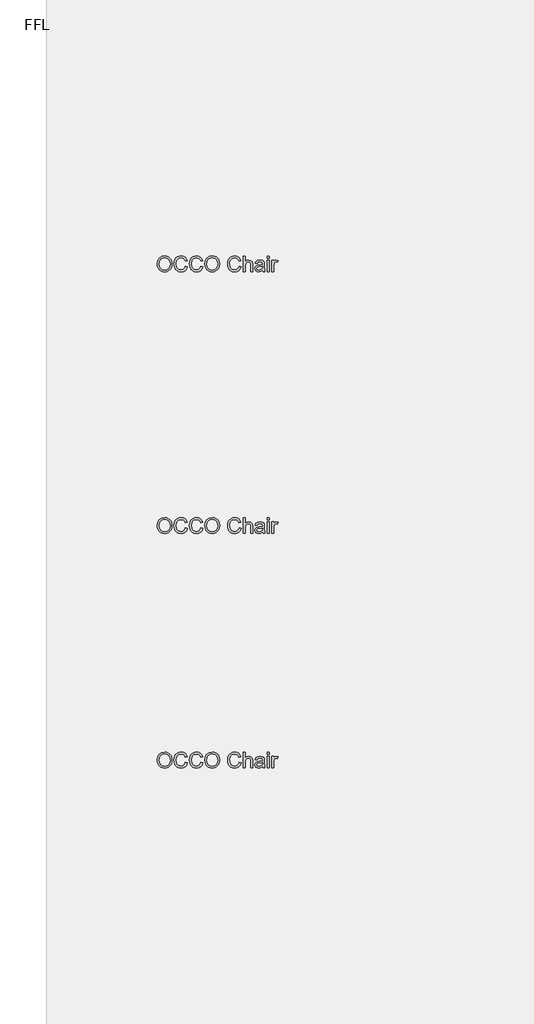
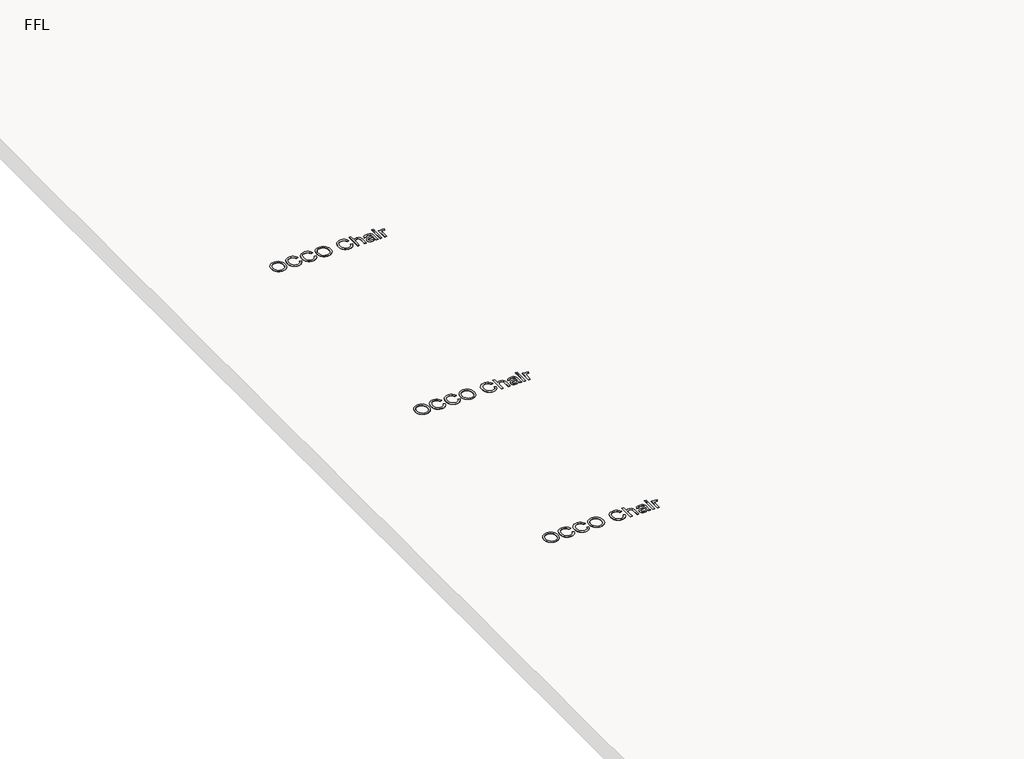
# One storey, part 3 of 5: 3 proxies.
"""IFC4 building model written with IfcOpenShell, lengths in millimetres."""

from ifc_helpers import new_model, si_unit, origin, origin_with_axes, place, context, project, spatial, polyline, outline, extrude, element, save

model = new_model("IFC4")

# Units and contexts
model_context = context("Model", 3, world=origin())
ifc_project = project(units=[si_unit("LENGTHUNIT", "METRE", prefix="MILLI")], contexts=[model_context])

# Site, building, storey
site = spatial("IfcSite", under=ifc_project)
building = spatial("IfcBuilding", under=site)
storey = spatial("IfcBuildingStorey", under=building, Name="FFL", Elevation=0.0)

# Proxies
placement = place(None, origin())
element("IfcBuildingElementProxy", 1, Name="150mm Arial", ObjectType="150mm Arial", at=placement, inside=storey, context=model_context, shape_type="SweptSolid", body=[
    extrude(outline(polyline([(-19208.4052967, 16076.6112457), (-19203.4834217, 16109.2705005), (-19188.7177967, 16133.9790341), (-19166.1727246, 16149.5289139), (-19137.9125083, 16154.7122072), (-19118.5405131, 16152.278313), (-19101.1697198, 16144.9766303), (-19086.7466429, 16133.3209812), (-19076.2177967, 16117.825188), (-19069.7814986, 16099.2374476), (-19067.6360659, 16078.3059572), (-19069.8941789, 16057.0950197), (-19076.6685179, 16038.245861), (-19087.5849842, 16022.7230245), (-19102.2694794, 16011.4910534), (-19119.4915347, 16004.6761495), (-19138.0206813, 16002.4045149), (-19157.6901525, 16004.9150317), (-19175.1601044, 16012.4465822), (-19189.5471236, 16024.3185774), (-19199.9677967, 16039.8504284), (-19206.2959217, 16057.7215221), (-19208.4052967, 16076.6112457)]), holes=[polyline([(-19189.9437583, 16076.4309572), (-19186.252352, 16053.3269909), (-19175.1781333, 16035.7218226), (-19158.533001, 16024.5799957), (-19138.1288544, 16020.8660534), (-19117.4272318, 16024.6160534), (-19100.7550563, 16035.8660534), (-19089.7619674, 16054.012087), (-19086.0976044, 16078.450188), (-19087.666114, 16094.793337), (-19092.3716429, 16108.918938), (-19100.0924962, 16120.4709211), (-19110.7069794, 16129.0932168), (-19123.5119674, 16134.4613058), (-19137.8043352, 16136.2506687), (-19157.6631092, 16132.8026519), (-19174.5471236, 16122.4586014), (-19186.0945996, 16104.0556567), (-19189.9437583, 16076.4309572)])]), origin_with_axes(), (0.0, 0.0, 1.0), 5.0),
    extrude(outline(polyline([(-18938.4052967, 16057.2122072), (-18919.9437583, 16052.4525918), (-18928.4623881, 16030.9396711), (-18941.8307775, 16015.2230245), (-18959.3908736, 16005.6091423), (-18980.4846236, 16002.4045149), (-19001.8983857, 16004.8293947), (-19018.9040948, 16012.1040341), (-19031.9389506, 16023.9760293), (-19041.4401525, 16040.1929764), (-19047.2409337, 16059.2584812), (-19049.1745275, 16079.6761495), (-19046.9885299, 16101.2116062), (-19040.4305371, 16119.808361), (-19029.8430972, 16134.8759692), (-19015.5687583, 16145.823986), (-18998.6396717, 16152.4901519), (-18980.087989, 16154.7122072), (-18959.846102, 16151.8366062), (-18943.1108256, 16143.2098034), (-18930.4049962, 16129.3636495), (-18922.2514506, 16110.8299957), (-18940.712989, 16106.4309572), (-18947.1132294, 16119.8939981), (-18955.8572198, 16129.1292745), (-18967.0531333, 16134.4703202), (-18980.8091429, 16136.2506687), (-18996.6655131, 16134.2765101), (-19009.6913544, 16128.3540341), (-19019.5756693, 16119.105236), (-19026.0074602, 16107.152111), (-19030.712989, 16079.7122072), (-19025.1420756, 16047.9093226), (-19018.0206813, 16036.0328202), (-19007.7983256, 16027.590813), (-18995.5432174, 16022.5472433), (-18982.3235659, 16020.8660534), (-18966.9134097, 16023.1557168), (-18954.072364, 16030.0247072), (-18944.377352, 16041.4009091), (-18938.4052967, 16057.2122072)])), origin_with_axes(), (0.0, 0.0, 1.0), 5.0),
    extrude(outline(polyline([(-18790.712989, 16057.2122072), (-18772.2514506, 16052.4525918), (-18780.7700804, 16030.9396711), (-18794.1384698, 16015.2230245), (-18811.6985659, 16005.6091423), (-18832.7923159, 16002.4045149), (-18854.206078, 16004.8293947), (-18871.2117871, 16012.1040341), (-18884.2466429, 16023.9760293), (-18893.7478448, 16040.1929764), (-18899.548626, 16059.2584812), (-18901.4822198, 16079.6761495), (-18899.2962222, 16101.2116062), (-18892.7382294, 16119.808361), (-18882.1507895, 16134.8759692), (-18867.8764506, 16145.823986), (-18850.947364, 16152.4901519), (-18832.3956813, 16154.7122072), (-18812.1537943, 16151.8366062), (-18795.4185179, 16143.2098034), (-18782.7126885, 16129.3636495), (-18774.5591429, 16110.8299957), (-18793.0206813, 16106.4309572), (-18799.4209217, 16119.8939981), (-18808.1649121, 16129.1292745), (-18819.3608256, 16134.4703202), (-18833.1168352, 16136.2506687), (-18848.9732054, 16134.2765101), (-18861.9990467, 16128.3540341), (-18871.8833616, 16119.105236), (-18878.3151525, 16107.152111), (-18883.0206813, 16079.7122072), (-18877.4497679, 16047.9093226), (-18870.3283736, 16036.0328202), (-18860.1060179, 16027.590813), (-18847.8509097, 16022.5472433), (-18834.6312583, 16020.8660534), (-18819.221102, 16023.1557168), (-18806.3800563, 16030.0247072), (-18796.6850443, 16041.4009091), (-18790.712989, 16057.2122072)])), origin_with_axes(), (0.0, 0.0, 1.0), 5.0),
    extrude(outline(polyline([(-18753.7899121, 16076.6112457), (-18748.8680371, 16109.2705005), (-18734.1024121, 16133.9790341), (-18711.55734, 16149.5289139), (-18683.2971236, 16154.7122072), (-18663.9251284, 16152.278313), (-18646.5543352, 16144.9766303), (-18632.1312583, 16133.3209812), (-18621.6024121, 16117.825188), (-18615.166114, 16099.2374476), (-18613.0206813, 16078.3059572), (-18615.2787943, 16057.0950197), (-18622.0531333, 16038.245861), (-18632.9695996, 16022.7230245), (-18647.6540948, 16011.4910534), (-18664.8761501, 16004.6761495), (-18683.4052967, 16002.4045149), (-18703.0747679, 16004.9150317), (-18720.5447198, 16012.4465822), (-18734.931739, 16024.3185774), (-18745.3524121, 16039.8504284), (-18751.6805371, 16057.7215221), (-18753.7899121, 16076.6112457)]), holes=[polyline([(-18735.3283736, 16076.4309572), (-18731.6369674, 16053.3269909), (-18720.5627486, 16035.7218226), (-18703.9176164, 16024.5799957), (-18683.5134698, 16020.8660534), (-18662.8118472, 16024.6160534), (-18646.1396717, 16035.8660534), (-18635.1465828, 16054.012087), (-18631.4822198, 16078.450188), (-18633.0507294, 16094.793337), (-18637.7562583, 16108.918938), (-18645.4771116, 16120.4709211), (-18656.0915948, 16129.0932168), (-18668.8965828, 16134.4613058), (-18683.1889506, 16136.2506687), (-18703.0477246, 16132.8026519), (-18719.931739, 16122.4586014), (-18731.479215, 16104.0556567), (-18735.3283736, 16076.4309572)])]), origin_with_axes(), (0.0, 0.0, 1.0), 5.0),
    extrude(outline(polyline([(-18426.0976044, 16057.2122072), (-18407.6360659, 16052.4525918), (-18416.1546958, 16030.9396711), (-18429.5230852, 16015.2230245), (-18447.0831813, 16005.6091423), (-18468.1769313, 16002.4045149), (-18489.5906934, 16004.8293947), (-18506.5964025, 16012.1040341), (-18519.6312583, 16023.9760293), (-18529.1324602, 16040.1929764), (-18534.9332414, 16059.2584812), (-18536.8668352, 16079.6761495), (-18534.6808376, 16101.2116062), (-18528.1228448, 16119.808361), (-18517.5354049, 16134.8759692), (-18503.2610659, 16145.823986), (-18486.3319794, 16152.4901519), (-18467.7802967, 16154.7122072), (-18447.5384097, 16151.8366062), (-18430.8031333, 16143.2098034), (-18418.0973039, 16129.3636495), (-18409.9437583, 16110.8299957), (-18428.4052967, 16106.4309572), (-18434.8055371, 16119.8939981), (-18443.5495275, 16129.1292745), (-18454.7454409, 16134.4703202), (-18468.5014506, 16136.2506687), (-18484.3578208, 16134.2765101), (-18497.3836621, 16128.3540341), (-18507.267977, 16119.105236), (-18513.6997679, 16107.152111), (-18518.4052967, 16079.7122072), (-18512.8343833, 16047.9093226), (-18505.712989, 16036.0328202), (-18495.4906333, 16027.590813), (-18483.2355251, 16022.5472433), (-18470.0158736, 16020.8660534), (-18454.6057174, 16023.1557168), (-18441.7646717, 16030.0247072), (-18432.0696597, 16041.4009091), (-18426.0976044, 16057.2122072)])), origin_with_axes(), (0.0, 0.0, 1.0), 5.0),
    extrude(outline(polyline([(-18384.5591429, 16004.7122072), (-18384.5591429, 16152.4045149), (-18366.0976044, 16152.4045149), (-18366.0976044, 16098.1016303), (-18351.7015708, 16111.136486), (-18333.9702006, 16115.481438), (-18313.2370275, 16110.7398514), (-18300.6528929, 16097.6328803), (-18296.8668352, 16073.3660534), (-18296.8668352, 16004.7122072), (-18315.3283736, 16004.7122072), (-18315.3283736, 16071.4549957), (-18316.7977246, 16083.011486), (-18321.2057775, 16090.9261495), (-18328.3091429, 16095.496462), (-18337.8644313, 16097.0198995), (-18352.9906333, 16092.9093226), (-18363.0867871, 16081.7674957), (-18366.0976044, 16062.3323995), (-18366.0976044, 16004.7122072), (-18384.5591429, 16004.7122072)])), origin_with_axes(), (0.0, 0.0, 1.0), 5.0),
    extrude(outline(polyline([(-18202.2514506, 16018.558361), (-18220.1540948, 16006.0463418), (-18239.931739, 16002.4045149), (-18255.3599241, 16004.5950197), (-18266.7406333, 16011.1665341), (-18273.7583616, 16021.1455005), (-18276.0976044, 16033.558361), (-18272.5639506, 16048.1617264), (-18263.2790948, 16058.762688), (-18250.3524121, 16064.8203803), (-18234.3788544, 16067.5968226), (-18202.3596236, 16073.9429764), (-18202.2514506, 16078.0535534), (-18203.5224842, 16086.292736), (-18207.3355852, 16091.683361), (-18215.8632294, 16095.6857649), (-18227.744239, 16097.0198995), (-18246.4221236, 16093.4682168), (-18255.3283736, 16080.8660534), (-18273.7899121, 16083.1737457), (-18265.8031333, 16101.2025918), (-18249.7214025, 16111.7674957), (-18225.3644313, 16115.481438), (-18202.9906333, 16112.200188), (-18190.3524121, 16103.9610053), (-18184.6913544, 16091.4309572), (-18183.7899121, 16075.277111), (-18183.7899121, 16052.308361), (-18182.8524121, 16020.2350437), (-18179.1745275, 16004.7122072), (-18197.6360659, 16004.7122072), (-18202.2514506, 16018.558361)]), holes=[polyline([(-18202.2514506, 16055.481438), (-18232.0351044, 16049.8203803), (-18247.9185179, 16046.8275918), (-18255.1120275, 16041.9598034), (-18257.6360659, 16034.856438), (-18252.1372679, 16024.8684572), (-18236.0014506, 16020.8660534), (-18217.3235659, 16025.2831207), (-18205.2802967, 16035.9742264), (-18202.3596236, 16050.2530726), (-18202.2514506, 16055.481438)])]), origin_with_axes(), (0.0, 0.0, 1.0), 5.0),
    extrude(outline(polyline([(-18158.4052967, 16004.7122072), (-18158.4052967, 16113.1737457), (-18139.9437583, 16113.1737457), (-18139.9437583, 16004.7122072), (-18158.4052967, 16004.7122072)])), origin_with_axes(), (0.0, 0.0, 1.0), 5.0),
    extrude(outline(polyline([(-18158.4052967, 16133.9429764), (-18158.4052967, 16152.4045149), (-18139.9437583, 16152.4045149), (-18139.9437583, 16133.9429764), (-18158.4052967, 16133.9429764)])), origin_with_axes(), (0.0, 0.0, 1.0), 5.0),
    extrude(outline(polyline([(-18112.2514506, 16004.7122072), (-18112.2514506, 16113.1737457), (-18096.0976044, 16113.1737457), (-18096.0976044, 16097.1280726), (-18084.6312583, 16111.9117264), (-18073.0927967, 16115.481438), (-18054.5591429, 16109.7843226), (-18060.7250083, 16093.2338418), (-18073.7057775, 16097.0198995), (-18084.1444794, 16093.3780726), (-18090.7971236, 16083.2819187), (-18093.7899121, 16061.7194187), (-18093.7899121, 16004.7122072), (-18112.2514506, 16004.7122072)])), origin_with_axes(), (0.0, 0.0, 1.0), 5.0),
])
element("IfcBuildingElementProxy", 2, Name="150mm Arial", ObjectType="150mm Arial", at=placement, inside=storey, context=model_context, shape_type="SweptSolid", body=[
    extrude(outline(polyline([(-19208.4052967, 18316.6112457), (-19203.4834217, 18349.2705005), (-19188.7177967, 18373.9790341), (-19166.1727246, 18389.5289139), (-19137.9125083, 18394.7122072), (-19118.5405131, 18392.278313), (-19101.1697198, 18384.9766303), (-19086.7466429, 18373.3209812), (-19076.2177967, 18357.825188), (-19069.7814986, 18339.2374476), (-19067.6360659, 18318.3059572), (-19069.8941789, 18297.0950197), (-19076.6685179, 18278.245861), (-19087.5849842, 18262.7230245), (-19102.2694794, 18251.4910534), (-19119.4915347, 18244.6761495), (-19138.0206813, 18242.4045149), (-19157.6901525, 18244.9150317), (-19175.1601044, 18252.4465822), (-19189.5471236, 18264.3185774), (-19199.9677967, 18279.8504284), (-19206.2959217, 18297.7215221), (-19208.4052967, 18316.6112457)]), holes=[polyline([(-19189.9437583, 18316.4309572), (-19186.252352, 18293.3269909), (-19175.1781333, 18275.7218226), (-19158.533001, 18264.5799957), (-19138.1288544, 18260.8660534), (-19117.4272318, 18264.6160534), (-19100.7550563, 18275.8660534), (-19089.7619674, 18294.012087), (-19086.0976044, 18318.450188), (-19087.666114, 18334.793337), (-19092.3716429, 18348.918938), (-19100.0924962, 18360.4709211), (-19110.7069794, 18369.0932168), (-19123.5119674, 18374.4613058), (-19137.8043352, 18376.2506687), (-19157.6631092, 18372.8026519), (-19174.5471236, 18362.4586014), (-19186.0945996, 18344.0556567), (-19189.9437583, 18316.4309572)])]), origin_with_axes(), (0.0, 0.0, 1.0), 5.0),
    extrude(outline(polyline([(-18938.4052967, 18297.2122072), (-18919.9437583, 18292.4525918), (-18928.4623881, 18270.9396711), (-18941.8307775, 18255.2230245), (-18959.3908736, 18245.6091423), (-18980.4846236, 18242.4045149), (-19001.8983857, 18244.8293947), (-19018.9040948, 18252.1040341), (-19031.9389506, 18263.9760293), (-19041.4401525, 18280.1929764), (-19047.2409337, 18299.2584812), (-19049.1745275, 18319.6761495), (-19046.9885299, 18341.2116062), (-19040.4305371, 18359.808361), (-19029.8430972, 18374.8759692), (-19015.5687583, 18385.823986), (-18998.6396717, 18392.4901519), (-18980.087989, 18394.7122072), (-18959.846102, 18391.8366062), (-18943.1108256, 18383.2098034), (-18930.4049962, 18369.3636495), (-18922.2514506, 18350.8299957), (-18940.712989, 18346.4309572), (-18947.1132294, 18359.8939981), (-18955.8572198, 18369.1292745), (-18967.0531333, 18374.4703202), (-18980.8091429, 18376.2506687), (-18996.6655131, 18374.2765101), (-19009.6913544, 18368.3540341), (-19019.5756693, 18359.105236), (-19026.0074602, 18347.152111), (-19030.712989, 18319.7122072), (-19025.1420756, 18287.9093226), (-19018.0206813, 18276.0328202), (-19007.7983256, 18267.590813), (-18995.5432174, 18262.5472433), (-18982.3235659, 18260.8660534), (-18966.9134097, 18263.1557168), (-18954.072364, 18270.0247072), (-18944.377352, 18281.4009091), (-18938.4052967, 18297.2122072)])), origin_with_axes(), (0.0, 0.0, 1.0), 5.0),
    extrude(outline(polyline([(-18790.712989, 18297.2122072), (-18772.2514506, 18292.4525918), (-18780.7700804, 18270.9396711), (-18794.1384698, 18255.2230245), (-18811.6985659, 18245.6091423), (-18832.7923159, 18242.4045149), (-18854.206078, 18244.8293947), (-18871.2117871, 18252.1040341), (-18884.2466429, 18263.9760293), (-18893.7478448, 18280.1929764), (-18899.548626, 18299.2584812), (-18901.4822198, 18319.6761495), (-18899.2962222, 18341.2116062), (-18892.7382294, 18359.808361), (-18882.1507895, 18374.8759692), (-18867.8764506, 18385.823986), (-18850.947364, 18392.4901519), (-18832.3956813, 18394.7122072), (-18812.1537943, 18391.8366062), (-18795.4185179, 18383.2098034), (-18782.7126885, 18369.3636495), (-18774.5591429, 18350.8299957), (-18793.0206813, 18346.4309572), (-18799.4209217, 18359.8939981), (-18808.1649121, 18369.1292745), (-18819.3608256, 18374.4703202), (-18833.1168352, 18376.2506687), (-18848.9732054, 18374.2765101), (-18861.9990467, 18368.3540341), (-18871.8833616, 18359.105236), (-18878.3151525, 18347.152111), (-18883.0206813, 18319.7122072), (-18877.4497679, 18287.9093226), (-18870.3283736, 18276.0328202), (-18860.1060179, 18267.590813), (-18847.8509097, 18262.5472433), (-18834.6312583, 18260.8660534), (-18819.221102, 18263.1557168), (-18806.3800563, 18270.0247072), (-18796.6850443, 18281.4009091), (-18790.712989, 18297.2122072)])), origin_with_axes(), (0.0, 0.0, 1.0), 5.0),
    extrude(outline(polyline([(-18753.7899121, 18316.6112457), (-18748.8680371, 18349.2705005), (-18734.1024121, 18373.9790341), (-18711.55734, 18389.5289139), (-18683.2971236, 18394.7122072), (-18663.9251284, 18392.278313), (-18646.5543352, 18384.9766303), (-18632.1312583, 18373.3209812), (-18621.6024121, 18357.825188), (-18615.166114, 18339.2374476), (-18613.0206813, 18318.3059572), (-18615.2787943, 18297.0950197), (-18622.0531333, 18278.245861), (-18632.9695996, 18262.7230245), (-18647.6540948, 18251.4910534), (-18664.8761501, 18244.6761495), (-18683.4052967, 18242.4045149), (-18703.0747679, 18244.9150317), (-18720.5447198, 18252.4465822), (-18734.931739, 18264.3185774), (-18745.3524121, 18279.8504284), (-18751.6805371, 18297.7215221), (-18753.7899121, 18316.6112457)]), holes=[polyline([(-18735.3283736, 18316.4309572), (-18731.6369674, 18293.3269909), (-18720.5627486, 18275.7218226), (-18703.9176164, 18264.5799957), (-18683.5134698, 18260.8660534), (-18662.8118472, 18264.6160534), (-18646.1396717, 18275.8660534), (-18635.1465828, 18294.012087), (-18631.4822198, 18318.450188), (-18633.0507294, 18334.793337), (-18637.7562583, 18348.918938), (-18645.4771116, 18360.4709211), (-18656.0915948, 18369.0932168), (-18668.8965828, 18374.4613058), (-18683.1889506, 18376.2506687), (-18703.0477246, 18372.8026519), (-18719.931739, 18362.4586014), (-18731.479215, 18344.0556567), (-18735.3283736, 18316.4309572)])]), origin_with_axes(), (0.0, 0.0, 1.0), 5.0),
    extrude(outline(polyline([(-18426.0976044, 18297.2122072), (-18407.6360659, 18292.4525918), (-18416.1546958, 18270.9396711), (-18429.5230852, 18255.2230245), (-18447.0831813, 18245.6091423), (-18468.1769313, 18242.4045149), (-18489.5906934, 18244.8293947), (-18506.5964025, 18252.1040341), (-18519.6312583, 18263.9760293), (-18529.1324602, 18280.1929764), (-18534.9332414, 18299.2584812), (-18536.8668352, 18319.6761495), (-18534.6808376, 18341.2116062), (-18528.1228448, 18359.808361), (-18517.5354049, 18374.8759692), (-18503.2610659, 18385.823986), (-18486.3319794, 18392.4901519), (-18467.7802967, 18394.7122072), (-18447.5384097, 18391.8366062), (-18430.8031333, 18383.2098034), (-18418.0973039, 18369.3636495), (-18409.9437583, 18350.8299957), (-18428.4052967, 18346.4309572), (-18434.8055371, 18359.8939981), (-18443.5495275, 18369.1292745), (-18454.7454409, 18374.4703202), (-18468.5014506, 18376.2506687), (-18484.3578208, 18374.2765101), (-18497.3836621, 18368.3540341), (-18507.267977, 18359.105236), (-18513.6997679, 18347.152111), (-18518.4052967, 18319.7122072), (-18512.8343833, 18287.9093226), (-18505.712989, 18276.0328202), (-18495.4906333, 18267.590813), (-18483.2355251, 18262.5472433), (-18470.0158736, 18260.8660534), (-18454.6057174, 18263.1557168), (-18441.7646717, 18270.0247072), (-18432.0696597, 18281.4009091), (-18426.0976044, 18297.2122072)])), origin_with_axes(), (0.0, 0.0, 1.0), 5.0),
    extrude(outline(polyline([(-18384.5591429, 18244.7122072), (-18384.5591429, 18392.4045149), (-18366.0976044, 18392.4045149), (-18366.0976044, 18338.1016303), (-18351.7015708, 18351.136486), (-18333.9702006, 18355.481438), (-18313.2370275, 18350.7398514), (-18300.6528929, 18337.6328803), (-18296.8668352, 18313.3660534), (-18296.8668352, 18244.7122072), (-18315.3283736, 18244.7122072), (-18315.3283736, 18311.4549957), (-18316.7977246, 18323.011486), (-18321.2057775, 18330.9261495), (-18328.3091429, 18335.496462), (-18337.8644313, 18337.0198995), (-18352.9906333, 18332.9093226), (-18363.0867871, 18321.7674957), (-18366.0976044, 18302.3323995), (-18366.0976044, 18244.7122072), (-18384.5591429, 18244.7122072)])), origin_with_axes(), (0.0, 0.0, 1.0), 5.0),
    extrude(outline(polyline([(-18202.2514506, 18258.558361), (-18220.1540948, 18246.0463418), (-18239.931739, 18242.4045149), (-18255.3599241, 18244.5950197), (-18266.7406333, 18251.1665341), (-18273.7583616, 18261.1455005), (-18276.0976044, 18273.558361), (-18272.5639506, 18288.1617264), (-18263.2790948, 18298.762688), (-18250.3524121, 18304.8203803), (-18234.3788544, 18307.5968226), (-18202.3596236, 18313.9429764), (-18202.2514506, 18318.0535534), (-18203.5224842, 18326.292736), (-18207.3355852, 18331.683361), (-18215.8632294, 18335.6857649), (-18227.744239, 18337.0198995), (-18246.4221236, 18333.4682168), (-18255.3283736, 18320.8660534), (-18273.7899121, 18323.1737457), (-18265.8031333, 18341.2025918), (-18249.7214025, 18351.7674957), (-18225.3644313, 18355.481438), (-18202.9906333, 18352.200188), (-18190.3524121, 18343.9610053), (-18184.6913544, 18331.4309572), (-18183.7899121, 18315.277111), (-18183.7899121, 18292.308361), (-18182.8524121, 18260.2350437), (-18179.1745275, 18244.7122072), (-18197.6360659, 18244.7122072), (-18202.2514506, 18258.558361)]), holes=[polyline([(-18202.2514506, 18295.481438), (-18232.0351044, 18289.8203803), (-18247.9185179, 18286.8275918), (-18255.1120275, 18281.9598034), (-18257.6360659, 18274.856438), (-18252.1372679, 18264.8684572), (-18236.0014506, 18260.8660534), (-18217.3235659, 18265.2831207), (-18205.2802967, 18275.9742264), (-18202.3596236, 18290.2530726), (-18202.2514506, 18295.481438)])]), origin_with_axes(), (0.0, 0.0, 1.0), 5.0),
    extrude(outline(polyline([(-18158.4052967, 18244.7122072), (-18158.4052967, 18353.1737457), (-18139.9437583, 18353.1737457), (-18139.9437583, 18244.7122072), (-18158.4052967, 18244.7122072)])), origin_with_axes(), (0.0, 0.0, 1.0), 5.0),
    extrude(outline(polyline([(-18158.4052967, 18373.9429764), (-18158.4052967, 18392.4045149), (-18139.9437583, 18392.4045149), (-18139.9437583, 18373.9429764), (-18158.4052967, 18373.9429764)])), origin_with_axes(), (0.0, 0.0, 1.0), 5.0),
    extrude(outline(polyline([(-18112.2514506, 18244.7122072), (-18112.2514506, 18353.1737457), (-18096.0976044, 18353.1737457), (-18096.0976044, 18337.1280726), (-18084.6312583, 18351.9117264), (-18073.0927967, 18355.481438), (-18054.5591429, 18349.7843226), (-18060.7250083, 18333.2338418), (-18073.7057775, 18337.0198995), (-18084.1444794, 18333.3780726), (-18090.7971236, 18323.2819187), (-18093.7899121, 18301.7194187), (-18093.7899121, 18244.7122072), (-18112.2514506, 18244.7122072)])), origin_with_axes(), (0.0, 0.0, 1.0), 5.0),
])
element("IfcBuildingElementProxy", 3, Name="150mm Arial", ObjectType="150mm Arial", at=placement, inside=storey, context=model_context, shape_type="SweptSolid", body=[
    extrude(outline(polyline([(-19208.4052967, 20816.6112457), (-19203.4834217, 20849.2705005), (-19188.7177967, 20873.9790341), (-19166.1727246, 20889.5289139), (-19137.9125083, 20894.7122072), (-19118.5405131, 20892.278313), (-19101.1697198, 20884.9766303), (-19086.7466429, 20873.3209812), (-19076.2177967, 20857.825188), (-19069.7814986, 20839.2374476), (-19067.6360659, 20818.3059572), (-19069.8941789, 20797.0950197), (-19076.6685179, 20778.245861), (-19087.5849842, 20762.7230245), (-19102.2694794, 20751.4910534), (-19119.4915347, 20744.6761495), (-19138.0206813, 20742.4045149), (-19157.6901525, 20744.9150317), (-19175.1601044, 20752.4465822), (-19189.5471236, 20764.3185774), (-19199.9677967, 20779.8504284), (-19206.2959217, 20797.7215221), (-19208.4052967, 20816.6112457)]), holes=[polyline([(-19189.9437583, 20816.4309572), (-19186.252352, 20793.3269909), (-19175.1781333, 20775.7218226), (-19158.533001, 20764.5799957), (-19138.1288544, 20760.8660534), (-19117.4272318, 20764.6160534), (-19100.7550563, 20775.8660534), (-19089.7619674, 20794.012087), (-19086.0976044, 20818.450188), (-19087.666114, 20834.793337), (-19092.3716429, 20848.918938), (-19100.0924962, 20860.4709211), (-19110.7069794, 20869.0932168), (-19123.5119674, 20874.4613058), (-19137.8043352, 20876.2506687), (-19157.6631092, 20872.8026519), (-19174.5471236, 20862.4586014), (-19186.0945996, 20844.0556567), (-19189.9437583, 20816.4309572)])]), origin_with_axes(), (0.0, 0.0, 1.0), 5.0),
    extrude(outline(polyline([(-18938.4052967, 20797.2122072), (-18919.9437583, 20792.4525918), (-18928.4623881, 20770.9396711), (-18941.8307775, 20755.2230245), (-18959.3908736, 20745.6091423), (-18980.4846236, 20742.4045149), (-19001.8983857, 20744.8293947), (-19018.9040948, 20752.1040341), (-19031.9389506, 20763.9760293), (-19041.4401525, 20780.1929764), (-19047.2409337, 20799.2584812), (-19049.1745275, 20819.6761495), (-19046.9885299, 20841.2116062), (-19040.4305371, 20859.808361), (-19029.8430972, 20874.8759692), (-19015.5687583, 20885.823986), (-18998.6396717, 20892.4901519), (-18980.087989, 20894.7122072), (-18959.846102, 20891.8366062), (-18943.1108256, 20883.2098034), (-18930.4049962, 20869.3636495), (-18922.2514506, 20850.8299957), (-18940.712989, 20846.4309572), (-18947.1132294, 20859.8939981), (-18955.8572198, 20869.1292745), (-18967.0531333, 20874.4703202), (-18980.8091429, 20876.2506687), (-18996.6655131, 20874.2765101), (-19009.6913544, 20868.3540341), (-19019.5756693, 20859.105236), (-19026.0074602, 20847.152111), (-19030.712989, 20819.7122072), (-19025.1420756, 20787.9093226), (-19018.0206813, 20776.0328202), (-19007.7983256, 20767.590813), (-18995.5432174, 20762.5472433), (-18982.3235659, 20760.8660534), (-18966.9134097, 20763.1557168), (-18954.072364, 20770.0247072), (-18944.377352, 20781.4009091), (-18938.4052967, 20797.2122072)])), origin_with_axes(), (0.0, 0.0, 1.0), 5.0),
    extrude(outline(polyline([(-18790.712989, 20797.2122072), (-18772.2514506, 20792.4525918), (-18780.7700804, 20770.9396711), (-18794.1384698, 20755.2230245), (-18811.6985659, 20745.6091423), (-18832.7923159, 20742.4045149), (-18854.206078, 20744.8293947), (-18871.2117871, 20752.1040341), (-18884.2466429, 20763.9760293), (-18893.7478448, 20780.1929764), (-18899.548626, 20799.2584812), (-18901.4822198, 20819.6761495), (-18899.2962222, 20841.2116062), (-18892.7382294, 20859.808361), (-18882.1507895, 20874.8759692), (-18867.8764506, 20885.823986), (-18850.947364, 20892.4901519), (-18832.3956813, 20894.7122072), (-18812.1537943, 20891.8366062), (-18795.4185179, 20883.2098034), (-18782.7126885, 20869.3636495), (-18774.5591429, 20850.8299957), (-18793.0206813, 20846.4309572), (-18799.4209217, 20859.8939981), (-18808.1649121, 20869.1292745), (-18819.3608256, 20874.4703202), (-18833.1168352, 20876.2506687), (-18848.9732054, 20874.2765101), (-18861.9990467, 20868.3540341), (-18871.8833616, 20859.105236), (-18878.3151525, 20847.152111), (-18883.0206813, 20819.7122072), (-18877.4497679, 20787.9093226), (-18870.3283736, 20776.0328202), (-18860.1060179, 20767.590813), (-18847.8509097, 20762.5472433), (-18834.6312583, 20760.8660534), (-18819.221102, 20763.1557168), (-18806.3800563, 20770.0247072), (-18796.6850443, 20781.4009091), (-18790.712989, 20797.2122072)])), origin_with_axes(), (0.0, 0.0, 1.0), 5.0),
    extrude(outline(polyline([(-18753.7899121, 20816.6112457), (-18748.8680371, 20849.2705005), (-18734.1024121, 20873.9790341), (-18711.55734, 20889.5289139), (-18683.2971236, 20894.7122072), (-18663.9251284, 20892.278313), (-18646.5543352, 20884.9766303), (-18632.1312583, 20873.3209812), (-18621.6024121, 20857.825188), (-18615.166114, 20839.2374476), (-18613.0206813, 20818.3059572), (-18615.2787943, 20797.0950197), (-18622.0531333, 20778.245861), (-18632.9695996, 20762.7230245), (-18647.6540948, 20751.4910534), (-18664.8761501, 20744.6761495), (-18683.4052967, 20742.4045149), (-18703.0747679, 20744.9150317), (-18720.5447198, 20752.4465822), (-18734.931739, 20764.3185774), (-18745.3524121, 20779.8504284), (-18751.6805371, 20797.7215221), (-18753.7899121, 20816.6112457)]), holes=[polyline([(-18735.3283736, 20816.4309572), (-18731.6369674, 20793.3269909), (-18720.5627486, 20775.7218226), (-18703.9176164, 20764.5799957), (-18683.5134698, 20760.8660534), (-18662.8118472, 20764.6160534), (-18646.1396717, 20775.8660534), (-18635.1465828, 20794.012087), (-18631.4822198, 20818.450188), (-18633.0507294, 20834.793337), (-18637.7562583, 20848.918938), (-18645.4771116, 20860.4709211), (-18656.0915948, 20869.0932168), (-18668.8965828, 20874.4613058), (-18683.1889506, 20876.2506687), (-18703.0477246, 20872.8026519), (-18719.931739, 20862.4586014), (-18731.479215, 20844.0556567), (-18735.3283736, 20816.4309572)])]), origin_with_axes(), (0.0, 0.0, 1.0), 5.0),
    extrude(outline(polyline([(-18426.0976044, 20797.2122072), (-18407.6360659, 20792.4525918), (-18416.1546958, 20770.9396711), (-18429.5230852, 20755.2230245), (-18447.0831813, 20745.6091423), (-18468.1769313, 20742.4045149), (-18489.5906934, 20744.8293947), (-18506.5964025, 20752.1040341), (-18519.6312583, 20763.9760293), (-18529.1324602, 20780.1929764), (-18534.9332414, 20799.2584812), (-18536.8668352, 20819.6761495), (-18534.6808376, 20841.2116062), (-18528.1228448, 20859.808361), (-18517.5354049, 20874.8759692), (-18503.2610659, 20885.823986), (-18486.3319794, 20892.4901519), (-18467.7802967, 20894.7122072), (-18447.5384097, 20891.8366062), (-18430.8031333, 20883.2098034), (-18418.0973039, 20869.3636495), (-18409.9437583, 20850.8299957), (-18428.4052967, 20846.4309572), (-18434.8055371, 20859.8939981), (-18443.5495275, 20869.1292745), (-18454.7454409, 20874.4703202), (-18468.5014506, 20876.2506687), (-18484.3578208, 20874.2765101), (-18497.3836621, 20868.3540341), (-18507.267977, 20859.105236), (-18513.6997679, 20847.152111), (-18518.4052967, 20819.7122072), (-18512.8343833, 20787.9093226), (-18505.712989, 20776.0328202), (-18495.4906333, 20767.590813), (-18483.2355251, 20762.5472433), (-18470.0158736, 20760.8660534), (-18454.6057174, 20763.1557168), (-18441.7646717, 20770.0247072), (-18432.0696597, 20781.4009091), (-18426.0976044, 20797.2122072)])), origin_with_axes(), (0.0, 0.0, 1.0), 5.0),
    extrude(outline(polyline([(-18384.5591429, 20744.7122072), (-18384.5591429, 20892.4045149), (-18366.0976044, 20892.4045149), (-18366.0976044, 20838.1016303), (-18351.7015708, 20851.136486), (-18333.9702006, 20855.481438), (-18313.2370275, 20850.7398514), (-18300.6528929, 20837.6328803), (-18296.8668352, 20813.3660534), (-18296.8668352, 20744.7122072), (-18315.3283736, 20744.7122072), (-18315.3283736, 20811.4549957), (-18316.7977246, 20823.011486), (-18321.2057775, 20830.9261495), (-18328.3091429, 20835.496462), (-18337.8644313, 20837.0198995), (-18352.9906333, 20832.9093226), (-18363.0867871, 20821.7674957), (-18366.0976044, 20802.3323995), (-18366.0976044, 20744.7122072), (-18384.5591429, 20744.7122072)])), origin_with_axes(), (0.0, 0.0, 1.0), 5.0),
    extrude(outline(polyline([(-18202.2514506, 20758.558361), (-18220.1540948, 20746.0463418), (-18239.931739, 20742.4045149), (-18255.3599241, 20744.5950197), (-18266.7406333, 20751.1665341), (-18273.7583616, 20761.1455005), (-18276.0976044, 20773.558361), (-18272.5639506, 20788.1617264), (-18263.2790948, 20798.762688), (-18250.3524121, 20804.8203803), (-18234.3788544, 20807.5968226), (-18202.3596236, 20813.9429764), (-18202.2514506, 20818.0535534), (-18203.5224842, 20826.292736), (-18207.3355852, 20831.683361), (-18215.8632294, 20835.6857649), (-18227.744239, 20837.0198995), (-18246.4221236, 20833.4682168), (-18255.3283736, 20820.8660534), (-18273.7899121, 20823.1737457), (-18265.8031333, 20841.2025918), (-18249.7214025, 20851.7674957), (-18225.3644313, 20855.481438), (-18202.9906333, 20852.200188), (-18190.3524121, 20843.9610053), (-18184.6913544, 20831.4309572), (-18183.7899121, 20815.277111), (-18183.7899121, 20792.308361), (-18182.8524121, 20760.2350437), (-18179.1745275, 20744.7122072), (-18197.6360659, 20744.7122072), (-18202.2514506, 20758.558361)]), holes=[polyline([(-18202.2514506, 20795.481438), (-18232.0351044, 20789.8203803), (-18247.9185179, 20786.8275918), (-18255.1120275, 20781.9598034), (-18257.6360659, 20774.856438), (-18252.1372679, 20764.8684572), (-18236.0014506, 20760.8660534), (-18217.3235659, 20765.2831207), (-18205.2802967, 20775.9742264), (-18202.3596236, 20790.2530726), (-18202.2514506, 20795.481438)])]), origin_with_axes(), (0.0, 0.0, 1.0), 5.0),
    extrude(outline(polyline([(-18158.4052967, 20744.7122072), (-18158.4052967, 20853.1737457), (-18139.9437583, 20853.1737457), (-18139.9437583, 20744.7122072), (-18158.4052967, 20744.7122072)])), origin_with_axes(), (0.0, 0.0, 1.0), 5.0),
    extrude(outline(polyline([(-18158.4052967, 20873.9429764), (-18158.4052967, 20892.4045149), (-18139.9437583, 20892.4045149), (-18139.9437583, 20873.9429764), (-18158.4052967, 20873.9429764)])), origin_with_axes(), (0.0, 0.0, 1.0), 5.0),
    extrude(outline(polyline([(-18112.2514506, 20744.7122072), (-18112.2514506, 20853.1737457), (-18096.0976044, 20853.1737457), (-18096.0976044, 20837.1280726), (-18084.6312583, 20851.9117264), (-18073.0927967, 20855.481438), (-18054.5591429, 20849.7843226), (-18060.7250083, 20833.2338418), (-18073.7057775, 20837.0198995), (-18084.1444794, 20833.3780726), (-18090.7971236, 20823.2819187), (-18093.7899121, 20801.7194187), (-18093.7899121, 20744.7122072), (-18112.2514506, 20744.7122072)])), origin_with_axes(), (0.0, 0.0, 1.0), 5.0),
])

save(model, "model.ifc")
